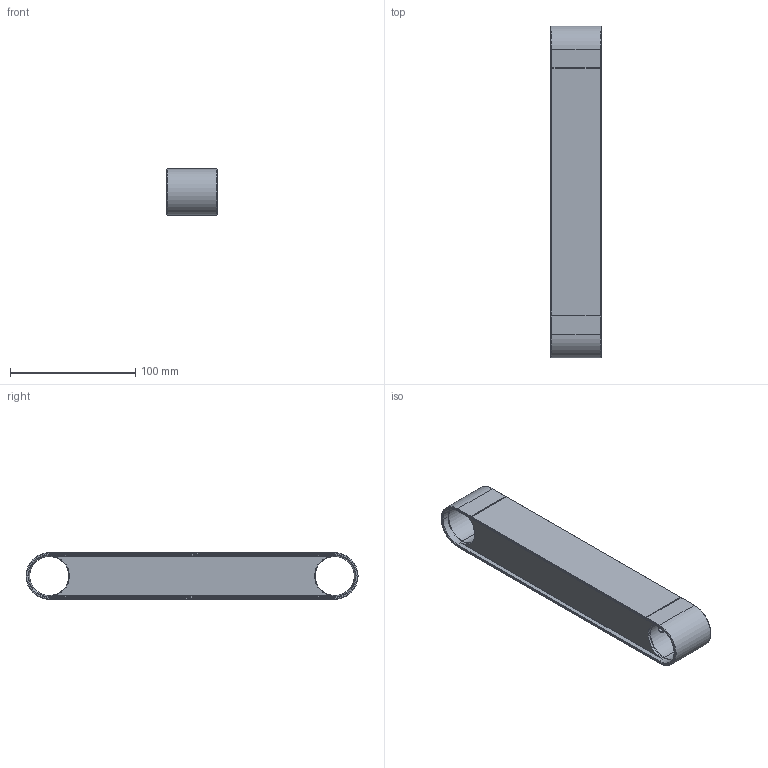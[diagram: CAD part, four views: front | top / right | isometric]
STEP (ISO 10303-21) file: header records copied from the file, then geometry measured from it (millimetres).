
FILE_DESCRIPTION (( 'STEP AP214' ), '1' );
FILE_NAME ('ACDISTBIXVEXXXX.STEP', '2023-08-28T15:29:49', ( '' ), ( '' ), 'SwSTEP 2.0', 'SolidWorks 2023', '' );
FILE_SCHEMA (( 'AUTOMOTIVE_DESIGN' ));
Length unit declared in the file: millimetre
Products named in the file (2): ACDISTBIXVEXXXX; WSCP2E0022-1400-01
Assembly tree (1 placements, depth 2):
  ACDISTBIXVEXXXX
    WSCP2E0022-1400-01
Bounding box: 40 x 265 x 37.2 mm (x, y, z)
Volume: 75245.6 mm3; surface area: 80329.7 mm2
Topology: 1 solids, 1 shells, 973 faces, 2221 edges, 1212 vertices
Faces by surface type: cylinder 337, bspline 270, torus 167, plane 143, sphere 39, cone 17
Entity records: 38764 total; most frequent: CARTESIAN_POINT 19182, ORIENTED_EDGE 4348, DIRECTION 3913, EDGE_CURVE 2174, AXIS2_PLACEMENT_3D 1620, VERTEX_POINT 1207, EDGE_LOOP 973, ADVANCED_FACE 969
